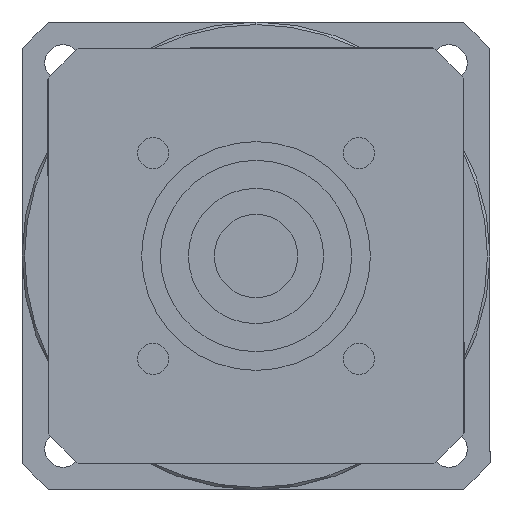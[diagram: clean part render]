
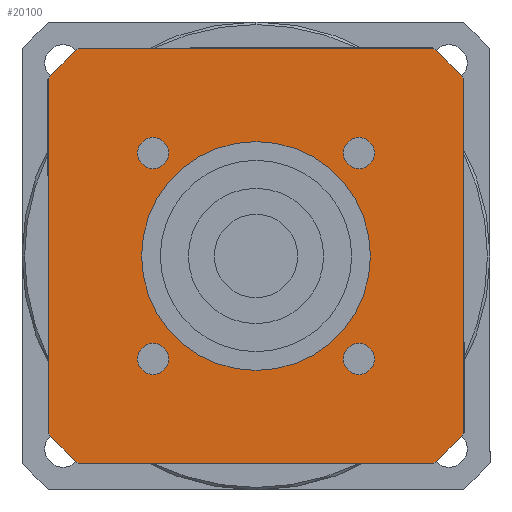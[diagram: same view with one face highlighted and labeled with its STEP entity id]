
A CAD part, left-side view. The second image highlights one B-rep face of the part: STEP entity #20100.
In plain terms, the highlighted planar face has unit normal (-1, 0, 0) as drawn and (0, 0, -1) by its records, which use the part's own axes.
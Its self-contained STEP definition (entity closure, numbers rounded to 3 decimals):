
#16130=CARTESIAN_POINT('',(-34.004,40.,-119.));
#16140=VERTEX_POINT('',#16130);
#16300=CARTESIAN_POINT('',(-40.,34.004,-119.));
#16310=VERTEX_POINT('',#16300);
#16340=CARTESIAN_POINT('',(0.,0.,
-119.));
#16350=DIRECTION('',(0.,0.,1.));
#16360=DIRECTION('',(0.,-1.,0.));
#16370=AXIS2_PLACEMENT_3D('',#16340,#16350,#16360);
#16380=CIRCLE('',#16370,52.5);
#16390=EDGE_CURVE('',#16140,#16310,#16380,.T.);
#18340=CARTESIAN_POINT('',(34.004,40.,-119.));
#18350=VERTEX_POINT('',#18340);
#18480=CARTESIAN_POINT('',(40.,40.,-119.));
#18490=DIRECTION('',(-1.,0.,0.));
#18500=VECTOR('',#18490,1000.);
#18510=LINE('',#18480,#18500);
#18520=EDGE_CURVE('',#18350,#16140,#18510,.T.);
#18570=CARTESIAN_POINT('',(-40.,40.,-119.));
#18580=DIRECTION('',(0.,0.,1.));
#18590=DIRECTION('',(-1.,0.,0.));
#18600=AXIS2_PLACEMENT_3D('',#18570,#18580,#18590);
#18610=PLANE('',#18600);
#18620=CARTESIAN_POINT('',(19.799,-19.799,-119.));
#18630=DIRECTION('',(0.,0.,-1.));
#18640=DIRECTION('',(1.,0.,0.));
#18650=AXIS2_PLACEMENT_3D('',#18620,#18630,#18640);
#18660=CIRCLE('',#18650,3.);
#18670=CARTESIAN_POINT('',(22.799,-19.799,-119.));
#18680=VERTEX_POINT('',#18670);
#18690=CARTESIAN_POINT('',(19.799,-22.799,-119.));
#18700=VERTEX_POINT('',#18690);
#18710=EDGE_CURVE('',#18680,#18700,#18660,.T.);
#18720=ORIENTED_EDGE('',*,*,#18710,.F.);
#18730=CARTESIAN_POINT('',(19.799,-16.799,-119.));
#18740=VERTEX_POINT('',#18730);
#18750=EDGE_CURVE('',#18700,#18740,#18660,.T.);
#18760=ORIENTED_EDGE('',*,*,#18750,.F.);
#18770=EDGE_CURVE('',#18740,#18680,#18660,.T.);
#18780=ORIENTED_EDGE('',*,*,#18770,.F.);
#18790=EDGE_LOOP('',(#18780,#18760,#18720));
#18800=FACE_BOUND('',#18790,.T.);
#18810=CARTESIAN_POINT('',(19.799,19.799,-119.));
#18820=DIRECTION('',(0.,0.,-1.));
#18830=DIRECTION('',(0.,1.,0.));
#18840=AXIS2_PLACEMENT_3D('',#18810,#18820,#18830);
#18850=CIRCLE('',#18840,3.);
#18860=CARTESIAN_POINT('',(19.799,22.799,-119.));
#18870=VERTEX_POINT('',#18860);
#18880=CARTESIAN_POINT('',(22.799,19.799,-119.));
#18890=VERTEX_POINT('',#18880);
#18900=EDGE_CURVE('',#18870,#18890,#18850,.T.);
#18910=ORIENTED_EDGE('',*,*,#18900,.F.);
#18920=CARTESIAN_POINT('',(16.799,19.799,-119.));
#18930=VERTEX_POINT('',#18920);
#18940=EDGE_CURVE('',#18890,#18930,#18850,.T.);
#18950=ORIENTED_EDGE('',*,*,#18940,.F.);
#18960=EDGE_CURVE('',#18930,#18870,#18850,.T.);
#18970=ORIENTED_EDGE('',*,*,#18960,.F.);
#18980=EDGE_LOOP('',(#18970,#18950,#18910));
#18990=FACE_BOUND('',#18980,.T.);
#19000=CARTESIAN_POINT('',(-19.799,19.799,-119.));
#19010=DIRECTION('',(0.,0.,-1.));
#19020=DIRECTION('',(-1.,0.,0.));
#19030=AXIS2_PLACEMENT_3D('',#19000,#19010,#19020);
#19040=CIRCLE('',#19030,3.);
#19050=CARTESIAN_POINT('',(-22.799,19.799,-119.));
#19060=VERTEX_POINT('',#19050);
#19070=CARTESIAN_POINT('',(-19.799,22.799,-119.));
#19080=VERTEX_POINT('',#19070);
#19090=EDGE_CURVE('',#19060,#19080,#19040,.T.);
#19100=ORIENTED_EDGE('',*,*,#19090,.F.);
#19110=CARTESIAN_POINT('',(-19.799,16.799,-119.));
#19120=VERTEX_POINT('',#19110);
#19130=EDGE_CURVE('',#19080,#19120,#19040,.T.);
#19140=ORIENTED_EDGE('',*,*,#19130,.F.);
#19150=EDGE_CURVE('',#19120,#19060,#19040,.T.);
#19160=ORIENTED_EDGE('',*,*,#19150,.F.);
#19170=EDGE_LOOP('',(#19160,#19140,#19100));
#19180=FACE_BOUND('',#19170,.T.);
#19190=CARTESIAN_POINT('',(-19.799,-19.799,-119.));
#19200=DIRECTION('',(0.,0.,-1.));
#19210=DIRECTION('',(0.,-1.,0.));
#19220=AXIS2_PLACEMENT_3D('',#19190,#19200,#19210);
#19230=CIRCLE('',#19220,3.);
#19240=CARTESIAN_POINT('',(-19.799,-22.799,-119.));
#19250=VERTEX_POINT('',#19240);
#19260=CARTESIAN_POINT('',(-22.799,-19.799,-119.));
#19270=VERTEX_POINT('',#19260);
#19280=EDGE_CURVE('',#19250,#19270,#19230,.T.);
#19290=ORIENTED_EDGE('',*,*,#19280,.F.);
#19300=CARTESIAN_POINT('',(-16.799,-19.799,-119.));
#19310=VERTEX_POINT('',#19300);
#19320=EDGE_CURVE('',#19270,#19310,#19230,.T.);
#19330=ORIENTED_EDGE('',*,*,#19320,.F.);
#19340=EDGE_CURVE('',#19310,#19250,#19230,.T.);
#19350=ORIENTED_EDGE('',*,*,#19340,.F.);
#19360=EDGE_LOOP('',(#19350,#19330,#19290));
#19370=FACE_BOUND('',#19360,.T.);
#19380=CARTESIAN_POINT('',(0.,0.,
-119.));
#19390=DIRECTION('',(0.,0.,1.));
#19400=DIRECTION('',(0.,-1.,0.));
#19410=AXIS2_PLACEMENT_3D('',#19380,#19390,#19400);
#19420=CIRCLE('',#19410,52.5);
#19430=CARTESIAN_POINT('',(-40.,-34.004,-119.));
#19440=VERTEX_POINT('',#19430);
#19450=CARTESIAN_POINT('',(-34.004,-40.,-119.));
#19460=VERTEX_POINT('',#19450);
#19470=EDGE_CURVE('',#19440,#19460,#19420,.T.);
#19480=ORIENTED_EDGE('',*,*,#19470,.F.);
#19490=CARTESIAN_POINT('',(-40.,-40.,-119.));
#19500=DIRECTION('',(1.,0.,0.));
#19510=VECTOR('',#19500,1000.);
#19520=LINE('',#19490,#19510);
#19530=CARTESIAN_POINT('',(34.004,-40.,-119.));
#19540=VERTEX_POINT('',#19530);
#19550=EDGE_CURVE('',#19460,#19540,#19520,.T.);
#19560=ORIENTED_EDGE('',*,*,#19550,.F.);
#19570=CARTESIAN_POINT('',(0.,0.,
-119.));
#19580=DIRECTION('',(0.,0.,1.));
#19590=DIRECTION('',(0.,-1.,0.));
#19600=AXIS2_PLACEMENT_3D('',#19570,#19580,#19590);
#19610=CIRCLE('',#19600,52.5);
#19620=CARTESIAN_POINT('',(40.,-34.004,-119.));
#19630=VERTEX_POINT('',#19620);
#19640=EDGE_CURVE('',#19540,#19630,#19610,.T.);
#19650=ORIENTED_EDGE('',*,*,#19640,.F.);
#19660=CARTESIAN_POINT('',(40.,-40.,-119.));
#19670=DIRECTION('',(0.,1.,0.));
#19680=VECTOR('',#19670,1000.);
#19690=LINE('',#19660,#19680);
#19700=CARTESIAN_POINT('',(40.,34.004,-119.));
#19710=VERTEX_POINT('',#19700);
#19720=EDGE_CURVE('',#19630,#19710,#19690,.T.);
#19730=ORIENTED_EDGE('',*,*,#19720,.F.);
#19740=CARTESIAN_POINT('',(0.,0.,
-119.));
#19750=DIRECTION('',(0.,0.,1.));
#19760=DIRECTION('',(0.,-1.,0.));
#19770=AXIS2_PLACEMENT_3D('',#19740,#19750,#19760);
#19780=CIRCLE('',#19770,52.5);
#19790=EDGE_CURVE('',#19710,#18350,#19780,.T.);
#19800=ORIENTED_EDGE('',*,*,#19790,.F.);
#19810=ORIENTED_EDGE('',*,*,#18520,.F.);
#19820=ORIENTED_EDGE('',*,*,#16390,.F.);
#19830=CARTESIAN_POINT('',(-40.,40.,-119.));
#19840=DIRECTION('',(0.,-1.,0.));
#19850=VECTOR('',#19840,1000.);
#19860=LINE('',#19830,#19850);
#19870=EDGE_CURVE('',#16310,#19440,#19860,.T.);
#19880=ORIENTED_EDGE('',*,*,#19870,.F.);
#19890=EDGE_LOOP('',(#19880,#19820,#19810,#19800,#19730,#19650,#19560,
#19480));
#19900=FACE_OUTER_BOUND('',#19890,.T.);
#19910=CARTESIAN_POINT('',(0.,0.,
-119.));
#19920=DIRECTION('',(0.,0.,1.));
#19930=DIRECTION('',(0.,-1.,0.));
#19940=AXIS2_PLACEMENT_3D('',#19910,#19920,#19930);
#19950=CIRCLE('',#19940,22.);
#19960=CARTESIAN_POINT('',(22.,0.,-119.));
#19970=VERTEX_POINT('',#19960);
#19980=CARTESIAN_POINT('',(-22.,0.,-119.));
#19990=VERTEX_POINT('',#19980);
#20000=EDGE_CURVE('',#19970,#19990,#19950,.T.);
#20010=ORIENTED_EDGE('',*,*,#20000,.T.);
#20020=CARTESIAN_POINT('',(0.,-22.,-119.));
#20030=VERTEX_POINT('',#20020);
#20040=EDGE_CURVE('',#20030,#19970,#19950,.T.);
#20050=ORIENTED_EDGE('',*,*,#20040,.T.);
#20060=EDGE_CURVE('',#19990,#20030,#19950,.T.);
#20070=ORIENTED_EDGE('',*,*,#20060,.T.);
#20080=EDGE_LOOP('',(#20070,#20050,#20010));
#20090=FACE_BOUND('',#20080,.T.);
#20100=ADVANCED_FACE('',(#18800,#18990,#19180,#19370,#19900,#20090),
#18610,.F.);
